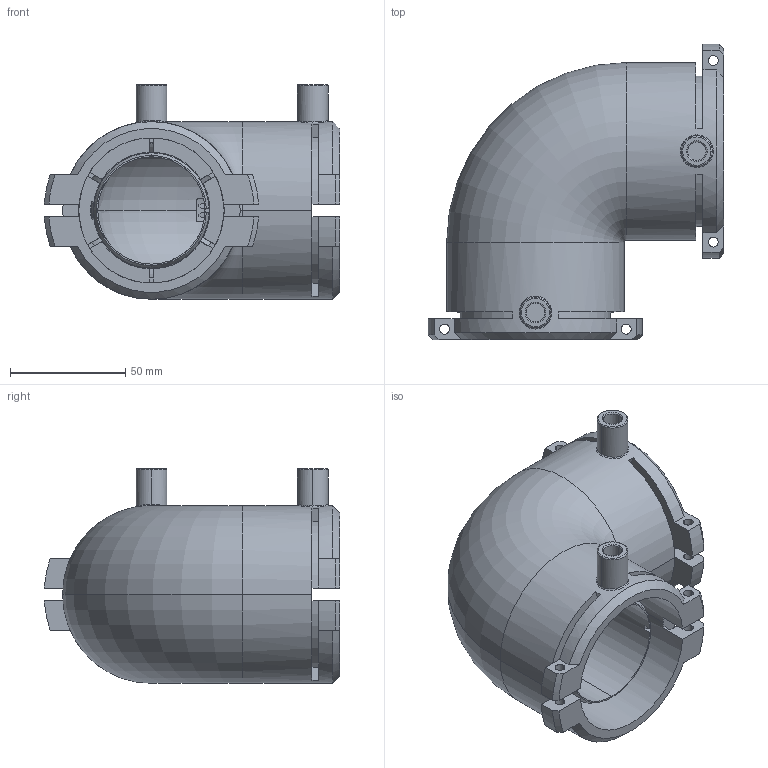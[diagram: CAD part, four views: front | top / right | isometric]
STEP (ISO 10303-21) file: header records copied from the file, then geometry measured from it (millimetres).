
FILE_DESCRIPTION (( 'STEP AP203' ), '1' );
FILE_NAME ('KP_23-63C.step', '2011-08-08T11:37:10', ( '' ), ( '' ), 'SwSTEP 2.0', 'SolidWorks 2011', '' );
FILE_SCHEMA (( 'CONFIG_CONTROL_DESIGN' ));
Length unit declared in the file: millimetre
Products named in the file (1): KP_23-63C
Bounding box: 128.02 x 128.02 x 93 mm (x, y, z)
Volume: 258737.2 mm3; surface area: 104180 mm2
Topology: 1 solids, 1 shells, 364 faces, 1170 edges, 758 vertices
Faces by surface type: plane 164, cylinder 118, torus 50, cone 20, bspline 8, sphere 4
Entity records: 14560 total; most frequent: CARTESIAN_POINT 4286, ORIENTED_EDGE 2340, DIRECTION 2020, EDGE_CURVE 1170, AXIS2_PLACEMENT_3D 765, VERTEX_POINT 758, VECTOR 490, LINE 490
